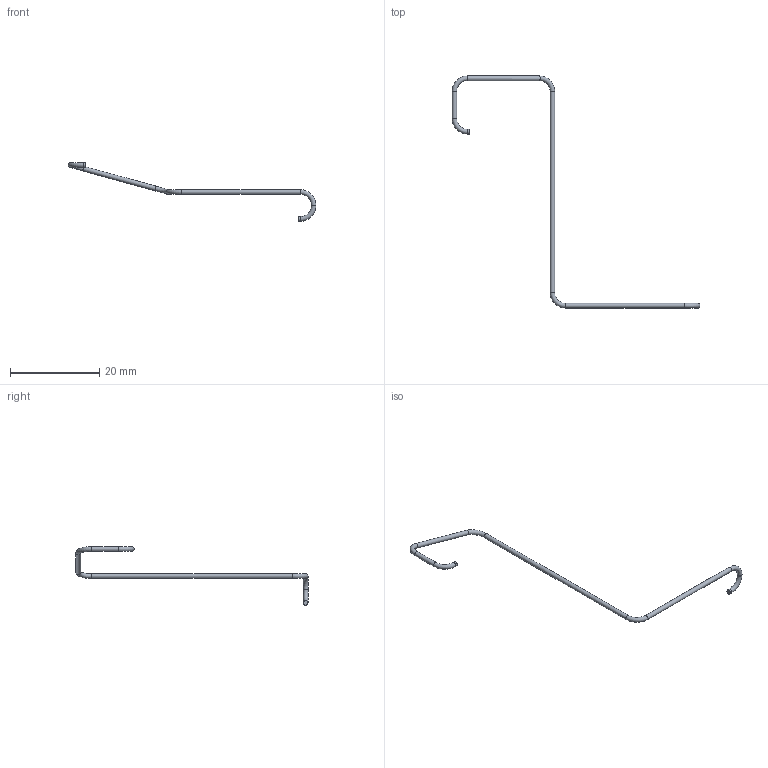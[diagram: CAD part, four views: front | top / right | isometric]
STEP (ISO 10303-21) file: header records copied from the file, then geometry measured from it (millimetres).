
FILE_DESCRIPTION(('Open CASCADE Model'),'2;1');
FILE_NAME('R36_J8_LED_PH_LEAD_1_OD1p05_R3','2026-09-15T14:14:49',( 'Author'),('Open CASCADE'),'Open CASCADE STEP processor 7.9', 'build123d','Unknown');
FILE_SCHEMA(('AUTOMOTIVE_DESIGN { 1 0 10303 214 1 1 1 1 }'));
Length unit declared in the file: millimetre
Products named in the file (1): R36_J8_LED_PH_LEAD_1_OD1p05_R3
Bounding box: 55.66 x 52.09 x 13.14 mm (x, y, z)
Volume: 107.2 mm3; surface area: 410 mm2
Topology: 1 solids, 1 shells, 15 faces, 27 edges, 14 vertices
Faces by surface type: cylinder 7, torus 6, plane 2
Full cylindrical faces by diameter (mm): 1.05 x7
Entity records: 701 total; most frequent: CARTESIAN_POINT 136, DIRECTION 108, ORIENTED_EDGE 54, PCURVE 54, DEFINITIONAL_REPRESENTATION 54, AXIS2_PLACEMENT_3D 36, LINE 34, VECTOR 34
